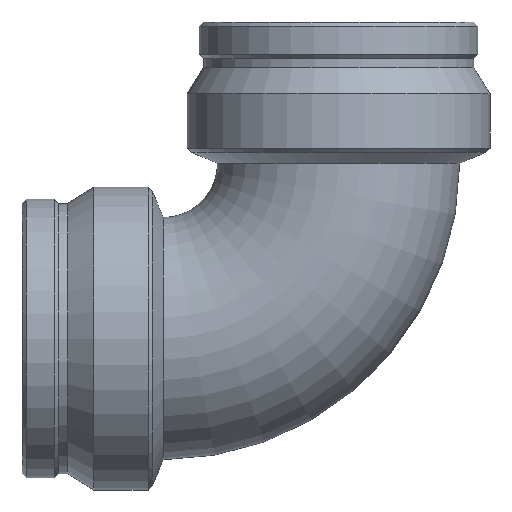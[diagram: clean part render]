
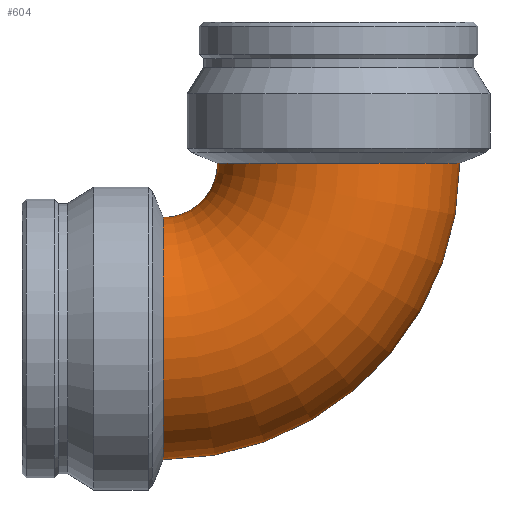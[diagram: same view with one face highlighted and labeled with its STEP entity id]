
A CAD part, front view. The second image highlights one B-rep face of the part: STEP entity #604.
In plain terms, the highlighted toroidal (fillet/blend) face has major radius 121.05 mm and minor radius 83.6 mm.
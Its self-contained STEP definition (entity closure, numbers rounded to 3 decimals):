
#136=FACE_OUTER_BOUND('',#180,.T.);
#180=EDGE_LOOP('',(#431,#432,#433,#434,#435,#436));
#238=CIRCLE('',#677,83.6);
#239=CIRCLE('',#678,83.6);
#240=CIRCLE('',#679,37.45);
#241=CIRCLE('',#680,83.6);
#242=CIRCLE('',#681,83.6);
#287=VERTEX_POINT('',#996);
#288=VERTEX_POINT('',#997);
#289=VERTEX_POINT('',#1000);
#290=VERTEX_POINT('',#1002);
#342=EDGE_CURVE('',#287,#288,#238,.T.);
#343=EDGE_CURVE('',#288,#287,#239,.T.);
#344=EDGE_CURVE('',#288,#289,#240,.T.);
#345=EDGE_CURVE('',#290,#289,#241,.T.);
#346=EDGE_CURVE('',#289,#290,#242,.T.);
#431=ORIENTED_EDGE('',*,*,#342,.F.);
#432=ORIENTED_EDGE('',*,*,#343,.F.);
#433=ORIENTED_EDGE('',*,*,#344,.T.);
#434=ORIENTED_EDGE('',*,*,#345,.F.);
#435=ORIENTED_EDGE('',*,*,#346,.F.);
#436=ORIENTED_EDGE('',*,*,#344,.F.);
#602=TOROIDAL_SURFACE('',#676,121.05,83.6);
#604=ADVANCED_FACE('',(#136),#602,.T.);
#676=AXIS2_PLACEMENT_3D('',#995,#778,#779);
#677=AXIS2_PLACEMENT_3D('',#998,#780,#781);
#678=AXIS2_PLACEMENT_3D('',#999,#782,#783);
#679=AXIS2_PLACEMENT_3D('',#1001,#784,#785);
#680=AXIS2_PLACEMENT_3D('',#1003,#786,#787);
#681=AXIS2_PLACEMENT_3D('',#1004,#788,#789);
#778=DIRECTION('center_axis',(0.,-1.,0.));
#779=DIRECTION('ref_axis',(0.,0.,-1.));
#780=DIRECTION('center_axis',(0.,0.,
1.));
#781=DIRECTION('ref_axis',(0.,-1.,0.));
#782=DIRECTION('center_axis',(0.,0.,
1.));
#783=DIRECTION('ref_axis',(0.,-1.,0.));
#784=DIRECTION('center_axis',(0.,1.,0.));
#785=DIRECTION('ref_axis',(0.,0.,
-1.));
#786=DIRECTION('center_axis',(-1.,0.,0.));
#787=DIRECTION('ref_axis',(0.,-1.,0.));
#788=DIRECTION('center_axis',(-1.,0.,0.));
#789=DIRECTION('ref_axis',(0.,-1.,0.));
#995=CARTESIAN_POINT('Origin',(-121.05,0.,121.05));
#996=CARTESIAN_POINT('',(0.,83.6,121.05));
#997=CARTESIAN_POINT('',(-83.6,0.,121.05));
#998=CARTESIAN_POINT('Origin',(0.,0.,
121.05));
#999=CARTESIAN_POINT('Origin',(0.,0.,
121.05));
#1000=CARTESIAN_POINT('',(-121.05,0.,83.6));
#1001=CARTESIAN_POINT('Origin',(-121.05,0.,121.05));
#1002=CARTESIAN_POINT('',(-121.05,83.6,0.));
#1003=CARTESIAN_POINT('Origin',(-121.05,0.,0.));
#1004=CARTESIAN_POINT('Origin',(-121.05,0.,0.));
